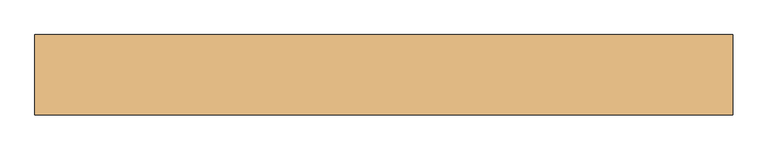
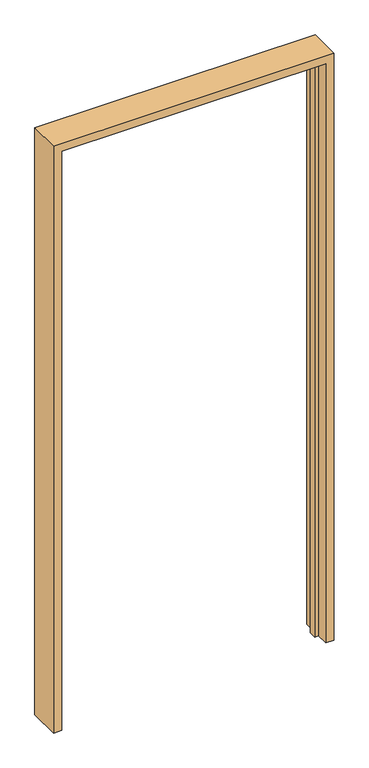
"""IFC4 building model written with IfcOpenShell, lengths in millimetres: door geometry, Door_Steel_Republic_Single-DoubleRabbet-Equal : ByType."""

from ifc_helpers import new_model, si_unit, origin, place, context, project, spatial, faceted_brep, source, transform, mapped, element, save


def door_7bd5bdad(model_context):
    return source(origin(), model_context, "Body", "Brep", [
        faceted_brep([(2115.5906968, -797.6410438, 0.0), (2148.4789049, -797.6410438, 0.0), (2148.4789049, -927.6410438, 0.0), (2115.5906968, -927.6410438, 0.0), (2115.5906968, -878.4285438, 0.0), (2099.7156968, -878.4285438, 0.0), (2099.7156968, -846.8535438, 0.0), (2115.5906968, -846.8535438, 0.0), (2115.5906968, -797.6410438, 2471.0), (1048.5906968, -797.6410438, 2471.0), (1048.5906968, -797.6410438, 0.0), (1015.7024887, -797.6410438, 0.0), (1015.7024887, -797.6410438, 2503.8882081), (2148.4789049, -797.6410438, 2503.8882081), (2148.4789049, -927.6410438, 2503.8882081), (1015.7024887, -927.6410438, 2503.8882081), (1015.7024887, -927.6410438, 0.0), (1048.5906968, -927.6410438, 0.0), (1048.5906968, -927.6410438, 2471.0), (2115.5906968, -927.6410438, 2471.0), (2115.5906968, -878.4285438, 2471.0), (1048.5906968, -878.4285438, 2471.0), (1048.5906968, -878.4285438, 0.0), (1064.4656968, -878.4285438, 0.0), (1064.4656968, -878.4285438, 2455.125), (2099.7156968, -878.4285438, 2455.125), (2099.7156968, -846.8535438, 2455.125), (1064.4656968, -846.8535438, 2455.125), (1064.4656968, -846.8535438, 0.0), (1048.5906968, -846.8535438, 0.0), (1048.5906968, -846.8535438, 2471.0), (2115.5906968, -846.8535438, 2471.0)], [[[0, 1, 2, 3, 4, 5, 6, 7]], [[1, 0, 8, 9, 10, 11, 12, 13]], [[2, 1, 13, 14]], [[3, 2, 14, 15, 16, 17, 18, 19]], [[4, 3, 19, 20]], [[5, 4, 20, 21, 22, 23, 24, 25]], [[6, 5, 25, 26]], [[7, 6, 26, 27, 28, 29, 30, 31]], [[0, 7, 31, 8]], [[9, 30, 29, 10]], [[10, 29, 28, 23, 22, 17, 16, 11]], [[15, 12, 11, 16]], [[21, 18, 17, 22]], [[27, 24, 23, 28]], [[14, 13, 12, 15]], [[20, 19, 18, 21]], [[26, 25, 24, 27]], [[8, 31, 30, 9]]]),
    ])


if __name__ == "__main__":
    model = new_model("IFC4")
    model_context = context("Model", 3, world=origin())
    ifc_project = project(units=[si_unit("LENGTHUNIT", "METRE", prefix="MILLI")], contexts=[model_context])
    site = spatial("IfcSite", under=ifc_project)
    building = spatial("IfcBuilding", under=site)
    placement = place(None, origin())
    door_shape = door_7bd5bdad(model_context)
    element("IfcDoor", 1, ObjectType="Door_Steel_Republic_Single-DoubleRabbet-Equal : ByType", at=placement, inside=building, context=model_context, shape_type="MappedRepresentation", body=[
        mapped(door_shape, transform((0.0, 0.0, 0.0), x_axis=(1.0, 0.0, 0.0), y_axis=(0.0, 1.0, 0.0), z_axis=(0.0, 0.0, 1.0))),
    ])
    save(model, "model.ifc")
